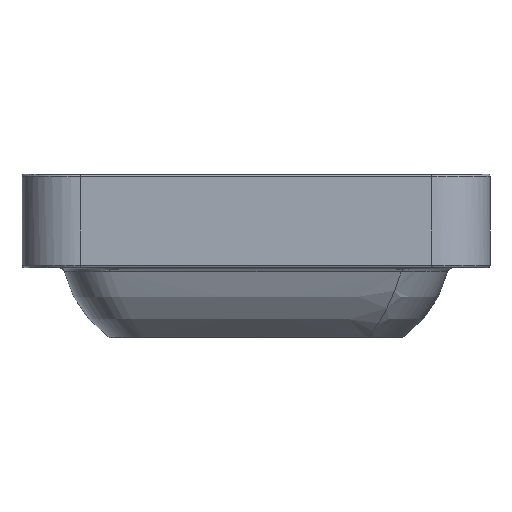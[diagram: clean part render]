
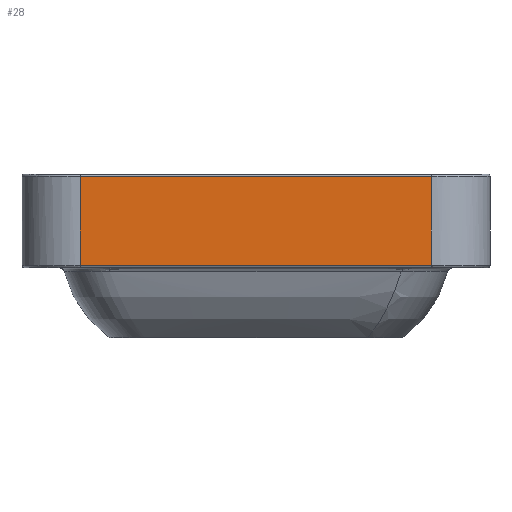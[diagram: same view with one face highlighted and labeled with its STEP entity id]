
A CAD part, left-side view. The second image highlights one B-rep face of the part: STEP entity #28.
In plain terms, the highlighted planar face has unit normal (-1, 0, 0).
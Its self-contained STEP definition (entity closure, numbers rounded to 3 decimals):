
#28=ADVANCED_FACE('',(#83),#895,.T.);
#83=FACE_OUTER_BOUND('',#138,.T.);
#138=EDGE_LOOP('',(#199,#200,#201,#202));
#199=ORIENTED_EDGE('',*,*,#491,.F.);
#200=ORIENTED_EDGE('',*,*,#492,.T.);
#201=ORIENTED_EDGE('',*,*,#487,.T.);
#202=ORIENTED_EDGE('',*,*,#493,.T.);
#487=EDGE_CURVE('',#779,#780,#694,.T.);
#491=EDGE_CURVE('',#783,#784,#696,.T.);
#492=EDGE_CURVE('',#783,#779,#697,.T.);
#493=EDGE_CURVE('',#780,#784,#698,.T.);
#694=B_SPLINE_CURVE_WITH_KNOTS('',1,(#16363,#16364),.UNSPECIFIED.,.F.,.F.,
(2,2),(0.,76.),.UNSPECIFIED.);
#696=B_SPLINE_CURVE_WITH_KNOTS('',1,(#16373,#16374),.UNSPECIFIED.,.F.,.F.,
(2,2),(0.,76.),.UNSPECIFIED.);
#697=B_SPLINE_CURVE_WITH_KNOTS('',1,(#16375,#16376),.UNSPECIFIED.,.F.,.F.,
(2,2),(0.,300.),.UNSPECIFIED.);
#698=B_SPLINE_CURVE_WITH_KNOTS('',1,(#16377,#16378),.UNSPECIFIED.,.F.,.F.,
(2,2),(0.,300.),.UNSPECIFIED.);
#779=VERTEX_POINT('',#16269);
#780=VERTEX_POINT('',#16270);
#783=VERTEX_POINT('',#16273);
#784=VERTEX_POINT('',#16274);
#895=PLANE('',#948);
#948=AXIS2_PLACEMENT_3D('',#978,#958,$);
#958=DIRECTION('',(-1.,0.,0.));
#978=CARTESIAN_POINT('',(-300.,165.,-81.8));
#16269=CARTESIAN_POINT('',(-300.,-150.,-78.));
#16270=CARTESIAN_POINT('',(-300.,-150.,-2.));
#16273=CARTESIAN_POINT('',(-300.,150.,-78.));
#16274=CARTESIAN_POINT('',(-300.,150.,-2.));
#16363=CARTESIAN_POINT('',(-300.,-150.,-78.));
#16364=CARTESIAN_POINT('',(-300.,-150.,-2.));
#16373=CARTESIAN_POINT('',(-300.,150.,-78.));
#16374=CARTESIAN_POINT('',(-300.,150.,-2.));
#16375=CARTESIAN_POINT('',(-300.,150.,-78.));
#16376=CARTESIAN_POINT('',(-300.,-150.,-78.));
#16377=CARTESIAN_POINT('',(-300.,-150.,-2.));
#16378=CARTESIAN_POINT('',(-300.,150.,-2.));
